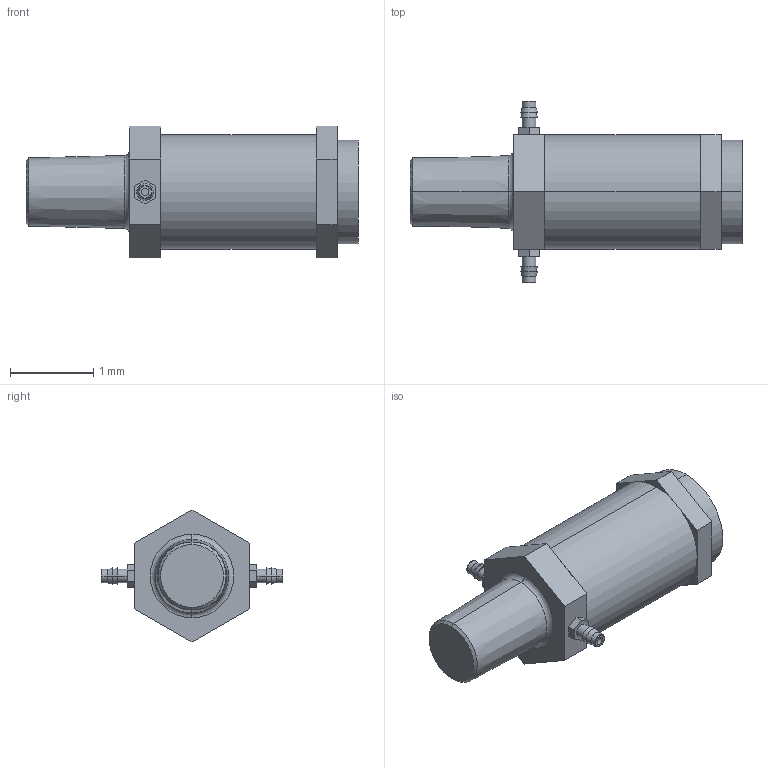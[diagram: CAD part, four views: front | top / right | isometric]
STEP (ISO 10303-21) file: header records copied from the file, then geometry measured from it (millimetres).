
FILE_DESCRIPTION((''),'2;1');
FILE_NAME('UER3.stp','2017-11-07T13:15:37',(''),(''),'Mechanical Desktop 2011','Mechanical Desktop 2011',', , ');
FILE_SCHEMA(('CONFIG_CONTROL_DESIGN'));
Length unit declared in the file: millimetre
Products named in the file (1): Product
Bounding box: 4 x 2.19 x 1.59 mm (x, y, z)
Volume: 4.8 mm3; surface area: 28.1 mm2
Topology: 6 solids, 6 shells, 77 faces, 162 edges, 104 vertices
Faces by surface type: plane 43, cylinder 16, cone 12, torus 4, bspline 2
Entity records: 2235 total; most frequent: CARTESIAN_POINT 432, DIRECTION 376, ORIENTED_EDGE 324, EDGE_CURVE 162, AXIS2_PLACEMENT_3D 138, VERTEX_POINT 104, VECTOR 100, LINE 100
